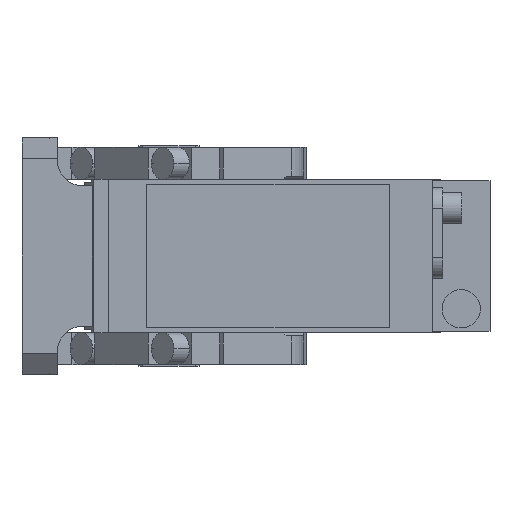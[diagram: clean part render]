
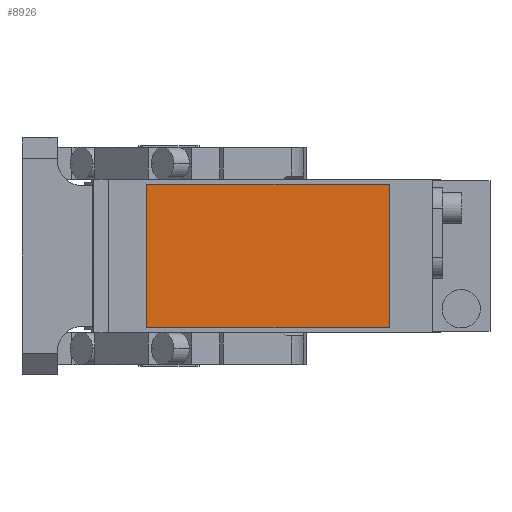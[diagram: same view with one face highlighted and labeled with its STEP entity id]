
A CAD part, front view. The second image highlights one B-rep face of the part: STEP entity #8926.
In plain terms, the highlighted planar face has unit normal (0, -1, 0).
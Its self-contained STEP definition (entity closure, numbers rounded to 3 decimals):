
#620 = FACE_OUTER_BOUND ( 'NONE', #6297, .T. ) ;
#704 = CARTESIAN_POINT ( 'NONE',  ( 0., -280.5, 0. ) ) ;
#838 = CARTESIAN_POINT ( 'NONE',  ( -7., -280.5, -22.5 ) ) ;
#983 = EDGE_CURVE ( 'NONE', #5436, #4411, #11321, .T. ) ;
#1513 = VECTOR ( 'NONE', #8274, 1000. ) ;
#1642 = LINE ( 'NONE', #2939, #8744 ) ;
#2901 = ORIENTED_EDGE ( 'NONE', *, *, #10273, .T. ) ;
#2939 = CARTESIAN_POINT ( 'NONE',  ( 69., -280.5, 22.5 ) ) ;
#3705 = ORIENTED_EDGE ( 'NONE', *, *, #983, .T. ) ;
#4411 = VERTEX_POINT ( 'NONE', #838 ) ;
#5148 = DIRECTION ( 'NONE',  ( 0., 0., 1. ) ) ;
#5274 = AXIS2_PLACEMENT_3D ( 'NONE', #704, #12088, #10025 ) ;
#5288 = PLANE ( 'NONE',  #5274 ) ;
#5436 = VERTEX_POINT ( 'NONE', #13079 ) ;
#5696 = VERTEX_POINT ( 'NONE', #9392 ) ;
#5923 = VECTOR ( 'NONE', #6165, 1000. ) ;
#6165 = DIRECTION ( 'NONE',  ( 1., 0., 0. ) ) ;
#6237 = CARTESIAN_POINT ( 'NONE',  ( -7., -280.5, -22.5 ) ) ;
#6297 = EDGE_LOOP ( 'NONE', ( #3705, #11828, #8581, #2901 ) ) ;
#6356 = CARTESIAN_POINT ( 'NONE',  ( 69., -280.5, 22.5 ) ) ;
#8274 = DIRECTION ( 'NONE',  ( -1., 0., 0. ) ) ;
#8409 = CARTESIAN_POINT ( 'NONE',  ( -7., -280.5, 22.5 ) ) ;
#8503 = VECTOR ( 'NONE', #13381, 1000. ) ;
#8581 = ORIENTED_EDGE ( 'NONE', *, *, #13266, .T. ) ;
#8713 = CARTESIAN_POINT ( 'NONE',  ( -7., -280.5, 22.5 ) ) ;
#8744 = VECTOR ( 'NONE', #5148, 1000. ) ;
#8907 = VERTEX_POINT ( 'NONE', #6356 ) ;
#8926 = ADVANCED_FACE ( 'NONE', ( #620 ), #5288, .T. ) ;
#9392 = CARTESIAN_POINT ( 'NONE',  ( 69., -280.5, -22.5 ) ) ;
#10025 = DIRECTION ( 'NONE',  ( 0., 0., -1. ) ) ;
#10273 = EDGE_CURVE ( 'NONE', #8907, #5436, #14230, .T. ) ;
#10653 = EDGE_CURVE ( 'NONE', #4411, #5696, #13194, .T. ) ;
#11321 = LINE ( 'NONE', #8713, #8503 ) ;
#11828 = ORIENTED_EDGE ( 'NONE', *, *, #10653, .T. ) ;
#12088 = DIRECTION ( 'NONE',  ( 0., -1., 0. ) ) ;
#13079 = CARTESIAN_POINT ( 'NONE',  ( -7., -280.5, 22.5 ) ) ;
#13194 = LINE ( 'NONE', #6237, #5923 ) ;
#13266 = EDGE_CURVE ( 'NONE', #5696, #8907, #1642, .T. ) ;
#13381 = DIRECTION ( 'NONE',  ( 0., 0., -1. ) ) ;
#14230 = LINE ( 'NONE', #8409, #1513 ) ;
